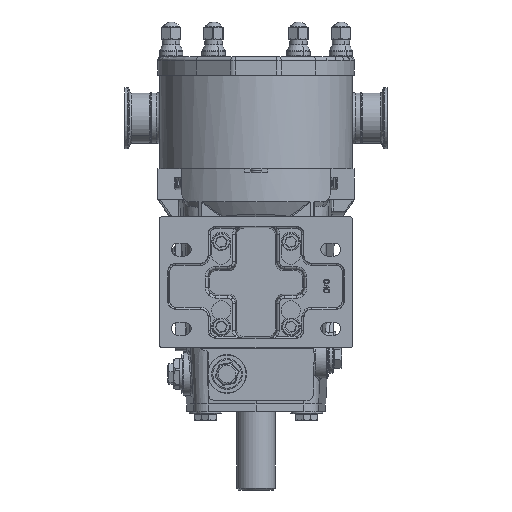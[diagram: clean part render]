
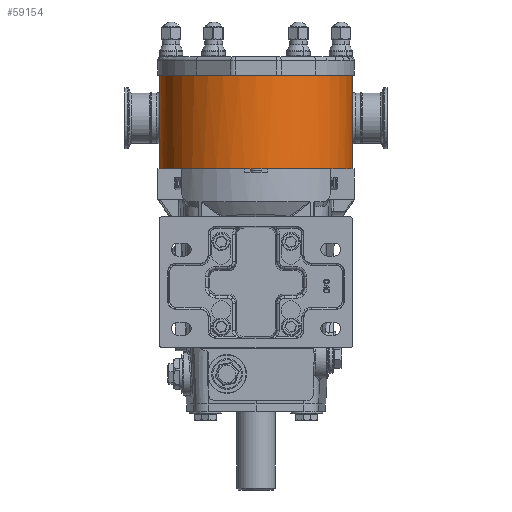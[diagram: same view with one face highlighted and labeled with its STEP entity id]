
A CAD part, front view. The second image highlights one B-rep face of the part: STEP entity #59154.
In plain terms, the highlighted cylindrical face has radius 79.248 mm (diameter 158.496 mm), a partial arc.
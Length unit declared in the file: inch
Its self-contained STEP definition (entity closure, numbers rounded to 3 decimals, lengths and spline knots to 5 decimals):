
#110 = CARTESIAN_POINT ( 'NONE',  ( 3.12, -3.3, -0.1 ) ) ;
#182 = CARTESIAN_POINT ( 'NONE',  ( 0., -3.3, -0.1 ) ) ;
#415 = AXIS2_PLACEMENT_3D ( 'NONE', #19081, #61855, #25172 ) ;
#884 = ORIENTED_EDGE ( 'NONE', *, *, #24822, .F. ) ;
#1112 = EDGE_CURVE ( 'NONE', #70474, #76175, #5275, .T. ) ;
#2182 = CIRCLE ( 'NONE', #41679, 3.12 ) ;
#4876 = DIRECTION ( 'NONE',  ( 1., 0., 0. ) ) ;
#5275 = CIRCLE ( 'NONE', #22510, 3.12 ) ;
#6320 = DIRECTION ( 'NONE',  ( 0., 0., 1. ) ) ;
#7307 = EDGE_LOOP ( 'NONE', ( #44228, #71322, #13464, #19347, #884, #14005, #74302, #22704, #30851, #36938 ) ) ;
#12608 = CIRCLE ( 'NONE', #15458, 3.12 ) ;
#13464 = ORIENTED_EDGE ( 'NONE', *, *, #1112, .F. ) ;
#13861 = VERTEX_POINT ( 'NONE', #26683 ) ;
#14005 = ORIENTED_EDGE ( 'NONE', *, *, #53259, .F. ) ;
#15143 = DIRECTION ( 'NONE',  ( 0., 0., -1. ) ) ;
#15458 = AXIS2_PLACEMENT_3D ( 'NONE', #28151, #70990, #34305 ) ;
#15954 = EDGE_CURVE ( 'NONE', #77596, #30288, #36702, .T. ) ;
#17788 = VERTEX_POINT ( 'NONE', #110 ) ;
#18449 = VECTOR ( 'NONE', #19895, 39.37008 ) ;
#19081 = CARTESIAN_POINT ( 'NONE',  ( 0., -3.3, -0.1 ) ) ;
#19341 = DIRECTION ( 'NONE',  ( 0., 0., -1. ) ) ;
#19347 = ORIENTED_EDGE ( 'NONE', *, *, #53037, .F. ) ;
#19895 = DIRECTION ( 'NONE',  ( 0., 0., 1. ) ) ;
#21568 = CIRCLE ( 'NONE', #64885, 3.12 ) ;
#22510 = AXIS2_PLACEMENT_3D ( 'NONE', #60159, #23462, #66318 ) ;
#22704 = ORIENTED_EDGE ( 'NONE', *, *, #51811, .F. ) ;
#23462 = DIRECTION ( 'NONE',  ( 0., 0., -1. ) ) ;
#24822 = EDGE_CURVE ( 'NONE', #13861, #73792, #21568, .T. ) ;
#25172 = DIRECTION ( 'NONE',  ( 1., 0., 0. ) ) ;
#25896 = VERTEX_POINT ( 'NONE', #52315 ) ;
#26626 = CARTESIAN_POINT ( 'NONE',  ( 3.12, -3.3, -0.1 ) ) ;
#26683 = CARTESIAN_POINT ( 'NONE',  ( -0.375, -6.39738, -0.1 ) ) ;
#26744 = CARTESIAN_POINT ( 'NONE',  ( 3.12, -3.3, 2.93 ) ) ;
#27159 = CARTESIAN_POINT ( 'NONE',  ( 0., -3.3, 2.93 ) ) ;
#27840 = AXIS2_PLACEMENT_3D ( 'NONE', #31786, #74635, #37941 ) ;
#28151 = CARTESIAN_POINT ( 'NONE',  ( 0., -3.3, -0.1 ) ) ;
#30288 = VERTEX_POINT ( 'NONE', #62582 ) ;
#30618 = DIRECTION ( 'NONE',  ( 1., 0., 0. ) ) ;
#30851 = ORIENTED_EDGE ( 'NONE', *, *, #50149, .F. ) ;
#31786 = CARTESIAN_POINT ( 'NONE',  ( 0., -3.3, -0.1 ) ) ;
#33294 = DIRECTION ( 'NONE',  ( 1., 0., 0. ) ) ;
#34305 = DIRECTION ( 'NONE',  ( 1., 0., 0. ) ) ;
#34561 = AXIS2_PLACEMENT_3D ( 'NONE', #182, #6320, #30618 ) ;
#36557 = LINE ( 'NONE', #38260, #18449 ) ;
#36702 = CIRCLE ( 'NONE', #415, 3.12 ) ;
#36811 = AXIS2_PLACEMENT_3D ( 'NONE', #51788, #15143, #57943 ) ;
#36938 = ORIENTED_EDGE ( 'NONE', *, *, #49006, .T. ) ;
#37941 = DIRECTION ( 'NONE',  ( 1., 0., 0. ) ) ;
#38260 = CARTESIAN_POINT ( 'NONE',  ( -3.12, -3.3, -0.1 ) ) ;
#39480 = EDGE_CURVE ( 'NONE', #70872, #25896, #55899, .T. ) ;
#41507 = DIRECTION ( 'NONE',  ( 0., 0., -1. ) ) ;
#41679 = AXIS2_PLACEMENT_3D ( 'NONE', #78139, #41507, #4876 ) ;
#43233 = CARTESIAN_POINT ( 'NONE',  ( -3.12, -3.3, -0.1 ) ) ;
#43455 = CIRCLE ( 'NONE', #36811, 3.12 ) ;
#44228 = ORIENTED_EDGE ( 'NONE', *, *, #39480, .T. ) ;
#49006 = EDGE_CURVE ( 'NONE', #17788, #70872, #62698, .T. ) ;
#50149 = EDGE_CURVE ( 'NONE', #17788, #50437, #43455, .T. ) ;
#50437 = VERTEX_POINT ( 'NONE', #79246 ) ;
#51788 = CARTESIAN_POINT ( 'NONE',  ( 0., -3.3, -0.1 ) ) ;
#51811 = EDGE_CURVE ( 'NONE', #50437, #77596, #12608, .T. ) ;
#52315 = CARTESIAN_POINT ( 'NONE',  ( -3.12, -3.3, 2.93 ) ) ;
#53037 = EDGE_CURVE ( 'NONE', #73792, #70474, #2182, .T. ) ;
#53259 = EDGE_CURVE ( 'NONE', #30288, #13861, #53831, .T. ) ;
#53831 = CIRCLE ( 'NONE', #27840, 3.12 ) ;
#55899 = CIRCLE ( 'NONE', #58683, 3.12 ) ;
#55986 = CARTESIAN_POINT ( 'NONE',  ( 0., -3.3, -0.1 ) ) ;
#57026 = CYLINDRICAL_SURFACE ( 'NONE', #34561, 3.12 ) ;
#57943 = DIRECTION ( 'NONE',  ( 1., 0., 0. ) ) ;
#58683 = AXIS2_PLACEMENT_3D ( 'NONE', #27159, #69998, #33294 ) ;
#58866 = VECTOR ( 'NONE', #63325, 39.37008 ) ;
#59154 = ADVANCED_FACE ( 'NONE', ( #71347 ), #57026, .T. ) ;
#60159 = CARTESIAN_POINT ( 'NONE',  ( 0., -3.3, -0.1 ) ) ;
#61855 = DIRECTION ( 'NONE',  ( 0., 0., -1. ) ) ;
#62123 = DIRECTION ( 'NONE',  ( 1., 0., 0. ) ) ;
#62582 = CARTESIAN_POINT ( 'NONE',  ( 0.375, -6.39738, -0.1 ) ) ;
#62698 = LINE ( 'NONE', #26626, #58866 ) ;
#63325 = DIRECTION ( 'NONE',  ( 0., 0., 1. ) ) ;
#64885 = AXIS2_PLACEMENT_3D ( 'NONE', #55986, #19341, #62123 ) ;
#65145 = EDGE_CURVE ( 'NONE', #76175, #25896, #36557, .T. ) ;
#66318 = DIRECTION ( 'NONE',  ( 1., 0., 0. ) ) ;
#69998 = DIRECTION ( 'NONE',  ( 0., 0., -1. ) ) ;
#70474 = VERTEX_POINT ( 'NONE', #72273 ) ;
#70872 = VERTEX_POINT ( 'NONE', #26744 ) ;
#70990 = DIRECTION ( 'NONE',  ( 0., 0., -1. ) ) ;
#71322 = ORIENTED_EDGE ( 'NONE', *, *, #65145, .F. ) ;
#71347 = FACE_OUTER_BOUND ( 'NONE', #7307, .T. ) ;
#72273 = CARTESIAN_POINT ( 'NONE',  ( -3.10456, -3.61, -0.1 ) ) ;
#73792 = VERTEX_POINT ( 'NONE', #79172 ) ;
#74302 = ORIENTED_EDGE ( 'NONE', *, *, #15954, .F. ) ;
#74635 = DIRECTION ( 'NONE',  ( 0., 0., -1. ) ) ;
#75429 = CARTESIAN_POINT ( 'NONE',  ( 2.39347, -5.30143, -0.1 ) ) ;
#76175 = VERTEX_POINT ( 'NONE', #43233 ) ;
#77596 = VERTEX_POINT ( 'NONE', #75429 ) ;
#78139 = CARTESIAN_POINT ( 'NONE',  ( 0., -3.3, -0.1 ) ) ;
#79172 = CARTESIAN_POINT ( 'NONE',  ( -2.39347, -5.30143, -0.1 ) ) ;
#79246 = CARTESIAN_POINT ( 'NONE',  ( 3.10456, -3.61, -0.1 ) ) ;
